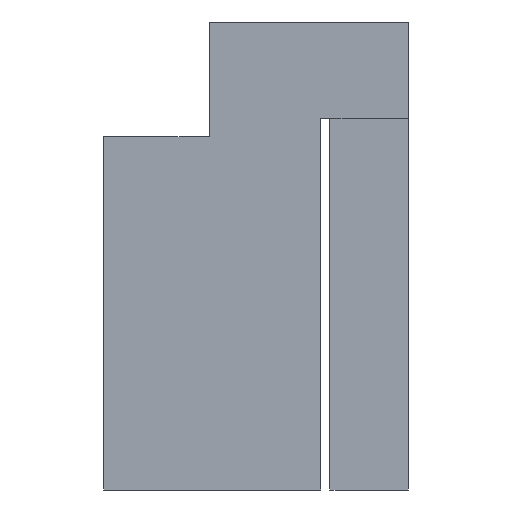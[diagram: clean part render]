
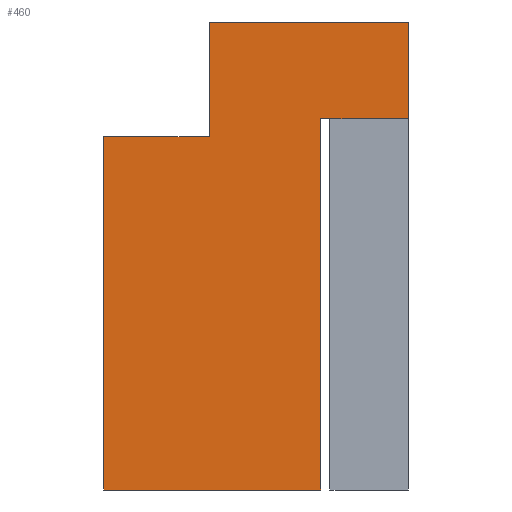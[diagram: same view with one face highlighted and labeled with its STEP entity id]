
A CAD part, front view. The second image highlights one B-rep face of the part: STEP entity #460.
In plain terms, the highlighted planar face has unit normal (0, -1, 0).
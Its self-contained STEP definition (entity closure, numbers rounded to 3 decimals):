
#24=FACE_OUTER_BOUND('',#48,.T.);
#48=EDGE_LOOP('',(#319,#320,#321,#322,#323,#324,#325,#326));
#71=LINE('',#651,#133);
#81=LINE('',#670,#143);
#82=LINE('',#673,#144);
#83=LINE('',#675,#145);
#84=LINE('',#677,#146);
#85=LINE('',#679,#147);
#86=LINE('',#681,#148);
#87=LINE('',#682,#149);
#133=VECTOR('',#529,1.);
#143=VECTOR('',#543,1.);
#144=VECTOR('',#546,1.);
#145=VECTOR('',#547,1.);
#146=VECTOR('',#548,1.);
#147=VECTOR('',#549,1.);
#148=VECTOR('',#550,1.);
#149=VECTOR('',#551,1.);
#195=VERTEX_POINT('',#648);
#196=VERTEX_POINT('',#650);
#203=VERTEX_POINT('',#668);
#204=VERTEX_POINT('',#672);
#205=VERTEX_POINT('',#674);
#206=VERTEX_POINT('',#676);
#207=VERTEX_POINT('',#678);
#208=VERTEX_POINT('',#680);
#239=EDGE_CURVE('',#196,#195,#71,.T.);
#249=EDGE_CURVE('',#195,#203,#81,.T.);
#250=EDGE_CURVE('',#204,#196,#82,.T.);
#251=EDGE_CURVE('',#205,#203,#83,.T.);
#252=EDGE_CURVE('',#205,#206,#84,.T.);
#253=EDGE_CURVE('',#207,#206,#85,.T.);
#254=EDGE_CURVE('',#207,#208,#86,.T.);
#255=EDGE_CURVE('',#204,#208,#87,.T.);
#319=ORIENTED_EDGE('',*,*,#250,.T.);
#320=ORIENTED_EDGE('',*,*,#239,.T.);
#321=ORIENTED_EDGE('',*,*,#249,.T.);
#322=ORIENTED_EDGE('',*,*,#251,.F.);
#323=ORIENTED_EDGE('',*,*,#252,.T.);
#324=ORIENTED_EDGE('',*,*,#253,.F.);
#325=ORIENTED_EDGE('',*,*,#254,.T.);
#326=ORIENTED_EDGE('',*,*,#255,.F.);
#438=PLANE('',#498);
#460=ADVANCED_FACE('',(#24),#438,.F.);
#498=AXIS2_PLACEMENT_3D('',#671,#544,#545);
#529=DIRECTION('',(-1.,0.,0.));
#543=DIRECTION('',(0.,0.,-1.));
#544=DIRECTION('center_axis',(0.,1.,0.));
#545=DIRECTION('ref_axis',(0.,0.,1.));
#546=DIRECTION('',(0.,0.,-1.));
#547=DIRECTION('',(-1.,0.,0.));
#548=DIRECTION('',(0.,0.,1.));
#549=DIRECTION('',(-1.,0.,0.));
#550=DIRECTION('',(0.,0.,1.));
#551=DIRECTION('',(1.,0.,0.));
#648=CARTESIAN_POINT('',(-36.55,12.5,-6.35));
#650=CARTESIAN_POINT('',(-34.8,12.5,-6.35));
#651=CARTESIAN_POINT('',(-35.4,12.5,-6.35));
#668=CARTESIAN_POINT('',(-36.55,12.5,-12.2));
#670=CARTESIAN_POINT('',(-36.55,12.5,-7.11));
#671=CARTESIAN_POINT('Origin',(-34.35,12.5,-5.55));
#672=CARTESIAN_POINT('',(-34.8,12.5,-4.45));
#673=CARTESIAN_POINT('',(-34.8,12.5,-4.45));
#674=CARTESIAN_POINT('',(-32.951,12.5,-12.2));
#675=CARTESIAN_POINT('',(-34.9,12.5,-12.2));
#676=CARTESIAN_POINT('',(-32.951,12.5,-6.05));
#677=CARTESIAN_POINT('',(-32.951,12.5,-7.363));
#678=CARTESIAN_POINT('',(-31.5,12.5,-6.05));
#679=CARTESIAN_POINT('',(-34.35,12.5,-6.05));
#680=CARTESIAN_POINT('',(-31.5,12.5,-4.45));
#681=CARTESIAN_POINT('',(-31.5,12.5,-6.05));
#682=CARTESIAN_POINT('',(-34.8,12.5,-4.45));
